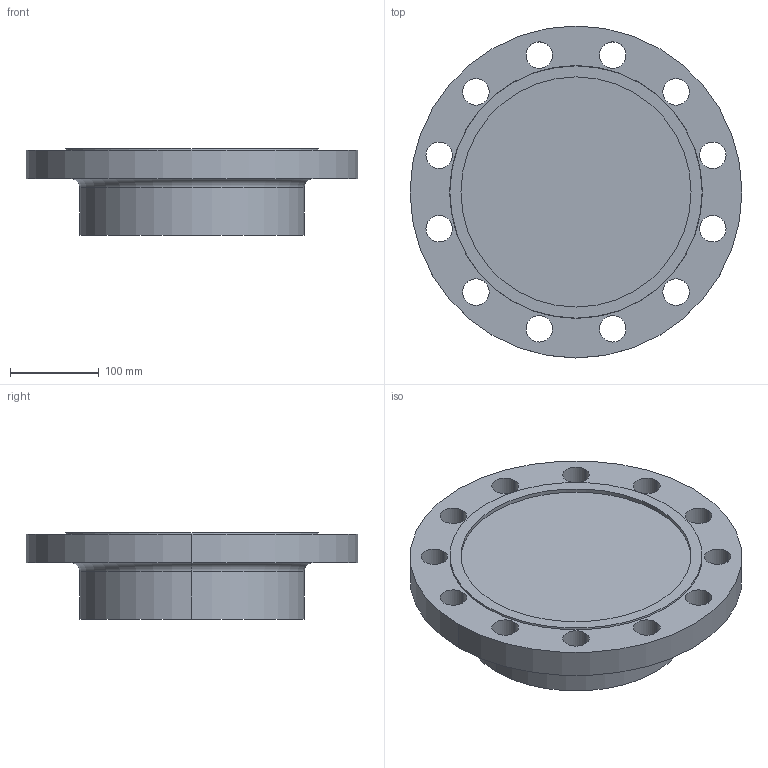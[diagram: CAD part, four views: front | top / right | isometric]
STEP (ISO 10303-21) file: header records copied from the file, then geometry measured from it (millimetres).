
FILE_DESCRIPTION (( 'STEP AP214' ), '1' );
FILE_NAME ('PN40 DN200 Type 21(i) - Type F Face.STEP', '2019-01-05T02:04:34', ( '' ), ( '' ), 'SwSTEP 2.0', 'SolidWorks 2019', '' );
FILE_SCHEMA (( 'AUTOMOTIVE_DESIGN' ));
Length unit declared in the file: millimetre
Products named in the file (1): PN40 DN200 Type 21(i) - Type F Face
Bounding box: 375 x 375 x 98 mm (x, y, z)
Volume: 6412197.5 mm3; surface area: 330688.3 mm2
Topology: 1 solids, 1 shells, 39 faces, 100 edges, 66 vertices
Faces by surface type: cylinder 30, plane 5, torus 2, cone 2
Entity records: 1308 total; most frequent: DIRECTION 248, CARTESIAN_POINT 206, ORIENTED_EDGE 200, AXIS2_PLACEMENT_3D 108, EDGE_CURVE 100, CIRCLE 68, EDGE_LOOP 66, VERTEX_POINT 66
